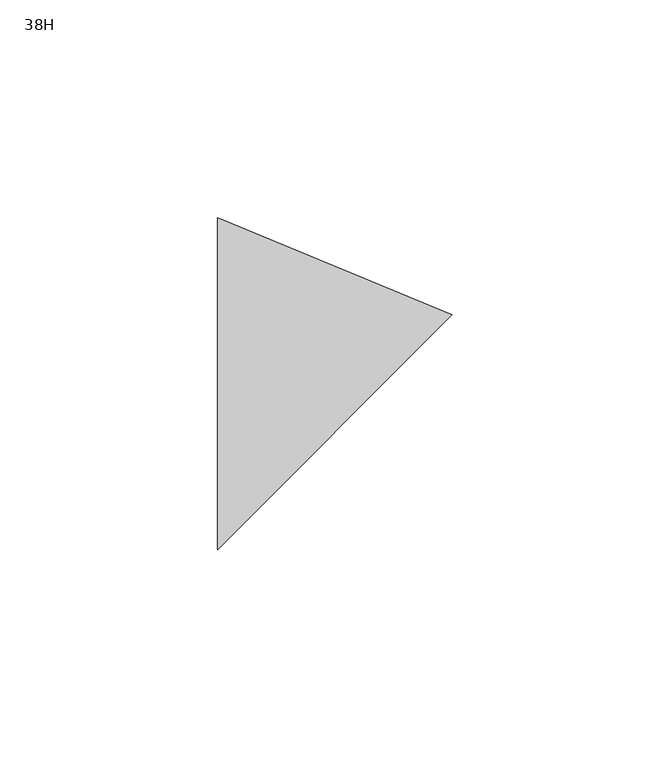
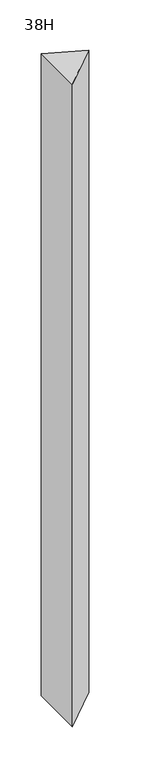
"""IFC4 building model written with IfcOpenShell, lengths in millimetres: furniture geometry, Steelcase - Montage - Junction - V - Same-Height : 38H."""

from ifc_helpers import new_model, si_unit, frame, origin, place, context, project, spatial, polyline, outline, extrude, source, transform, mapped, element, save


def furniture_38h_bad47e70(model_context):
    return source(origin(), model_context, "Body", "SweptSolid", [
        extrude(outline(polyline([(457.2, -38.1000015), (457.2, 38.1000015), (511.0815367, 15.7815352), (457.2, -38.1000015)])), frame((0.0, 0.0, 3.9624), z_axis=(0.0, 0.0, 1.0), x_axis=(1.0, 0.0, 0.0)), (0.0, 0.0, 1.0), 954.8876),
    ])


if __name__ == "__main__":
    model = new_model("IFC4")
    model_context = context("Model", 3, world=origin())
    ifc_project = project(units=[si_unit("LENGTHUNIT", "METRE", prefix="MILLI")], contexts=[model_context])
    site = spatial("IfcSite", under=ifc_project)
    building = spatial("IfcBuilding", under=site)
    placement = place(None, origin())
    furniture_38h_shape = furniture_38h_bad47e70(model_context)
    element("IfcFurniture", 1, ObjectType="Steelcase - Montage - Junction - V - Same-Height : 38H", at=placement, inside=building, context=model_context, shape_type="MappedRepresentation", body=[
        mapped(furniture_38h_shape, transform((0.0, 0.0, 0.0), x_axis=(1.0, 0.0, 0.0), y_axis=(0.0, 1.0, 0.0), z_axis=(0.0, 0.0, 1.0))),
    ])
    save(model, "model.ifc")
